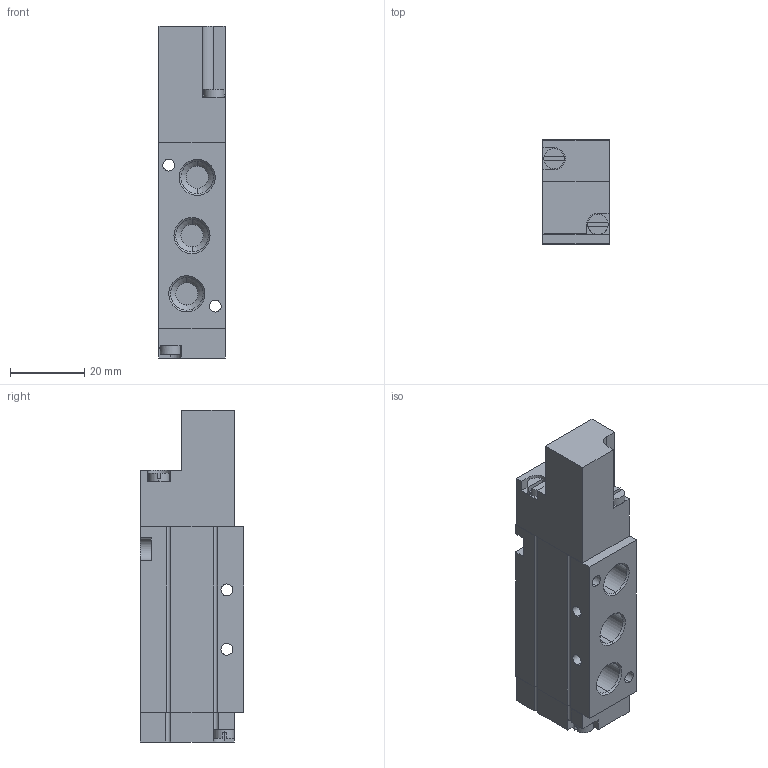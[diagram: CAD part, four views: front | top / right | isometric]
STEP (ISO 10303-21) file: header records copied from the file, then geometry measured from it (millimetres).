
FILE_DESCRIPTION((''),'2;1');
FILE_NAME('0820038951','2015-08-26T',('vol1hc'),(''),'PRO/ENGINEER BY PARAMETRIC TECHNOLOGY CORPORATION, 2012421','PRO/ENGINEER BY PARAMETRIC TECHNOLOGY CORPORATION, 2012421','');
FILE_SCHEMA(('CONFIG_CONTROL_DESIGN','SHAPE_APPEARANCE_LAYERS_GROUPS'));
Length unit declared in the file: millimetre
Products named in the file (1): 0820038951
Bounding box: 18 x 28 x 89.5 mm (x, y, z)
Volume: 35123.7 mm3; surface area: 11070.5 mm2
Topology: 1 solids, 1 shells, 138 faces, 350 edges, 222 vertices
Faces by surface type: plane 78, cylinder 40, cone 20
Entity records: 4224 total; most frequent: DIRECTION 754, CARTESIAN_POINT 710, ORIENTED_EDGE 700, EDGE_CURVE 350, AXIS2_PLACEMENT_3D 266, VECTOR 222, LINE 222, VERTEX_POINT 222
